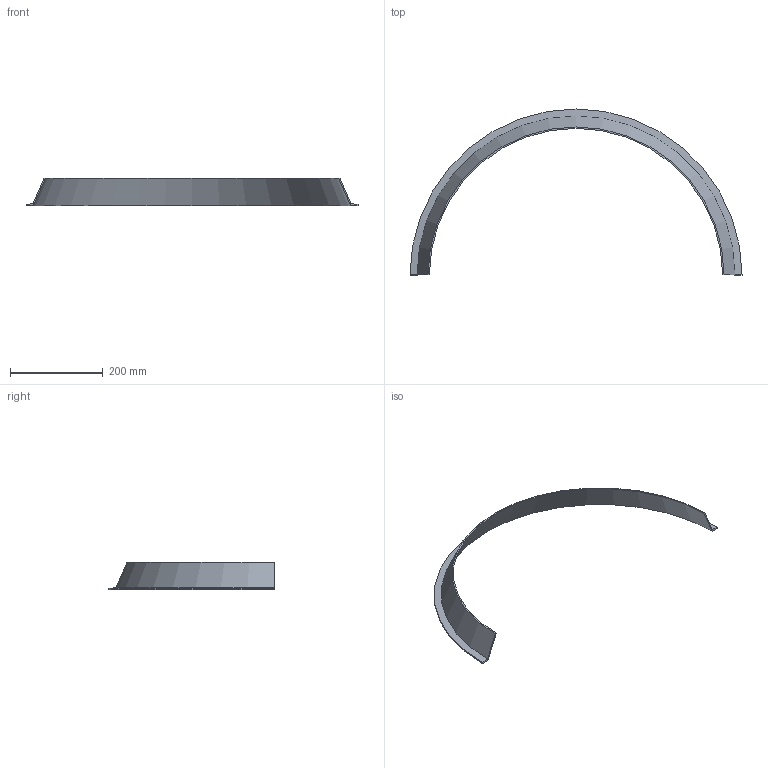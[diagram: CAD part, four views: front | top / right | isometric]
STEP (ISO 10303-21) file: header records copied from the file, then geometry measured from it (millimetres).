
FILE_DESCRIPTION(('Open CASCADE Model'),'2;1');
FILE_NAME('Open CASCADE Shape Model','2026-09-07T11:14:15',('Author'),( 'Open CASCADE'),'Open CASCADE STEP processor 7.9','Open CASCADE 7.9' ,'Unknown');
FILE_SCHEMA(('AUTOMOTIVE_DESIGN { 1 0 10303 214 1 1 1 1 }'));
Length unit declared in the file: millimetre
Products named in the file (1): Open CASCADE STEP translator 7.9 23
Bounding box: 716 x 358 x 60 mm (x, y, z)
Volume: 247749.8 mm3; surface area: 171008.5 mm2
Topology: 1 solids, 1 shells, 8 faces, 18 edges, 12 vertices
Faces by surface type: plane 4, cone 3, cylinder 1
Entity records: 472 total; most frequent: DIRECTION 78, CARTESIAN_POINT 75, LINE 44, VECTOR 44, ORIENTED_EDGE 36, PCURVE 36, DEFINITIONAL_REPRESENTATION 36, EDGE_CURVE 18
